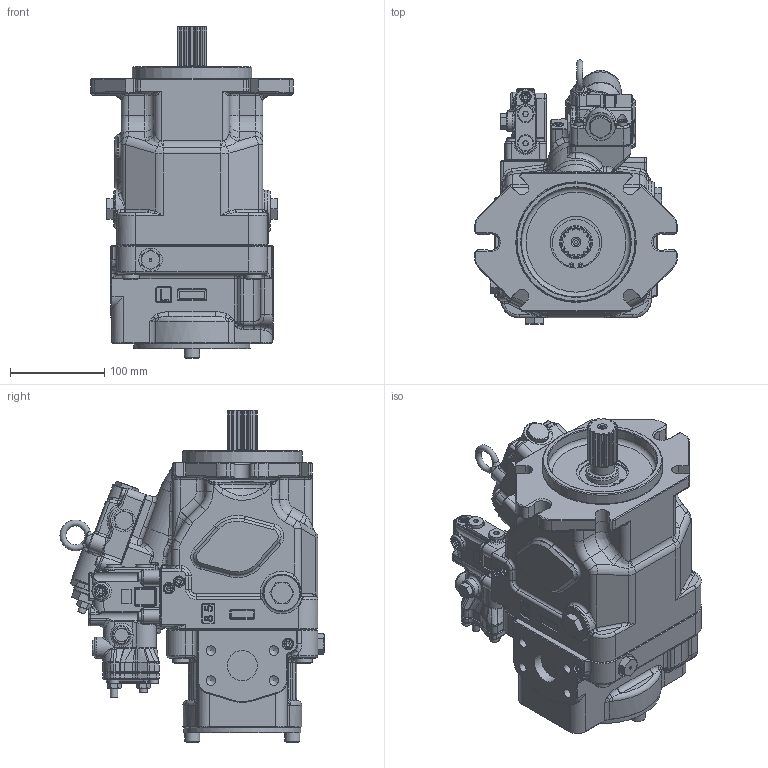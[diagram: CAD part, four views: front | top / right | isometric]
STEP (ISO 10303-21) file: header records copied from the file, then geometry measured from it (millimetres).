
FILE_DESCRIPTION(/* description */ (''),/* implementation_level */ '2;1');
FILE_NAME(/* name */ 'K3VLS105-1NRCH-L1ABH2.stp',/* time_stamp */ '2025-10-07T14:36:41+01:00',/* author */ ('jhatcher'),/* organization */ (''),/* preprocessor_version */ 'ST-DEVELOPER v20',/* originating_system */ 'Autodesk Inventor 2024',/* authorisation */ '');
FILE_SCHEMA (('AUTOMOTIVE_DESIGN { 1 0 10303 214 3 1 1 }'));
Products named in the file (1): K3VLS105-1NRCH-L1ABH2
Bounding box: 215 x 279.91 x 352 mm (x, y, z)
Volume: 6989156.3 mm3; surface area: 349362.8 mm2
Topology: 1 solids, 1 shells, 3417 faces, 8668 edges, 5322 vertices
Faces by surface type: plane 1445, cylinder 869, bspline 491, cone 395, torus 190, sphere 27
Full cylindrical faces by diameter (mm): 2.5 x2, 3 x1, 4 x3, 8 x3, 8.376 x4, 9.4 x10, 9.738 x1, 10 x12, 10.106 x8, 11 x12, 12 x9, 16 x5, 18 x8, 20 x5, 21 x1, 22 x1, 24 x2, 25 x1, 26 x1, 32 x1, 33 x1, 35 x1, 45 x1, 55 x1, 58 x1, 60 x1, 116 x1, 124 x1, 127 x1
Entity records: 119022 total; most frequent: CARTESIAN_POINT 40146, ORIENTED_EDGE 17114, DIRECTION 15576, EDGE_CURVE 8557, AXIS2_PLACEMENT_3D 5673, VERTEX_POINT 5322, LINE 4230, VECTOR 4230
